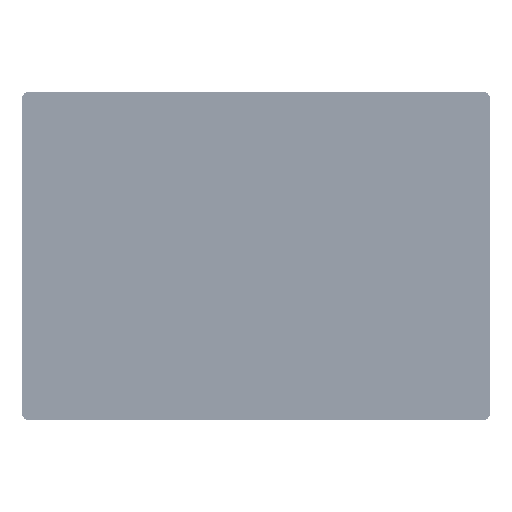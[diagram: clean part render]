
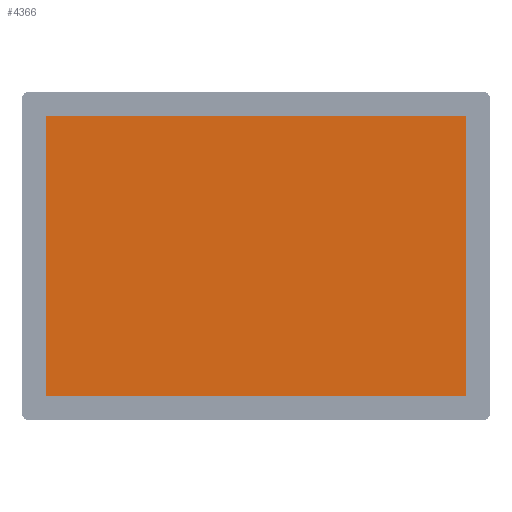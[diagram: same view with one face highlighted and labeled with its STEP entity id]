
A CAD part, top view. The second image highlights one B-rep face of the part: STEP entity #4366.
In plain terms, the highlighted planar face has unit normal (0, 0, 1).
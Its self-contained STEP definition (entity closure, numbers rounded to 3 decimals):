
#2913=DIRECTION('',(1.,0.,0.));
#2914=VECTOR('',#2913,296.412);
#2915=CARTESIAN_POINT('',(-148.206,98.904,4.95));
#2916=LINE('',#2915,#2914);
#2927=DIRECTION('',(0.,-1.,0.));
#2928=VECTOR('',#2927,197.808);
#2929=CARTESIAN_POINT('',(148.206,98.904,4.95));
#2930=LINE('',#2929,#2928);
#2941=DIRECTION('',(-1.,0.,0.));
#2942=VECTOR('',#2941,296.412);
#2943=CARTESIAN_POINT('',(148.206,-98.904,4.95));
#2944=LINE('',#2943,#2942);
#2955=DIRECTION('',(0.,1.,0.));
#2956=VECTOR('',#2955,197.808);
#2957=CARTESIAN_POINT('',(-148.206,-98.904,4.95));
#2958=LINE('',#2957,#2956);
#3952=CARTESIAN_POINT('',(-148.206,98.904,4.95));
#3953=CARTESIAN_POINT('',(148.206,98.904,4.95));
#3954=VERTEX_POINT('',#3952);
#3955=VERTEX_POINT('',#3953);
#3956=CARTESIAN_POINT('',(148.206,-98.904,4.95));
#3957=VERTEX_POINT('',#3956);
#3958=CARTESIAN_POINT('',(-148.206,-98.904,4.95));
#3959=VERTEX_POINT('',#3958);
#4352=CARTESIAN_POINT('',(0.,0.,4.95));
#4353=DIRECTION('',(0.,0.,-1.));
#4354=DIRECTION('',(-1.,0.,0.));
#4355=AXIS2_PLACEMENT_3D('',#4352,#4353,#4354);
#4356=PLANE('',#4355);
#4357=ORIENTED_EDGE('',*,*,#4342,.T.);
#4359=ORIENTED_EDGE('',*,*,#4358,.T.);
#4361=ORIENTED_EDGE('',*,*,#4360,.T.);
#4363=ORIENTED_EDGE('',*,*,#4362,.T.);
#4364=EDGE_LOOP('',(#4357,#4359,#4361,#4363));
#4365=FACE_OUTER_BOUND('',#4364,.F.);
#4366=ADVANCED_FACE('',(#4365),#4356,.F.);
#4342=EDGE_CURVE('',#3954,#3955,#2916,.T.);
#4358=EDGE_CURVE('',#3955,#3957,#2930,.T.);
#4360=EDGE_CURVE('',#3957,#3959,#2944,.T.);
#4362=EDGE_CURVE('',#3959,#3954,#2958,.T.);
